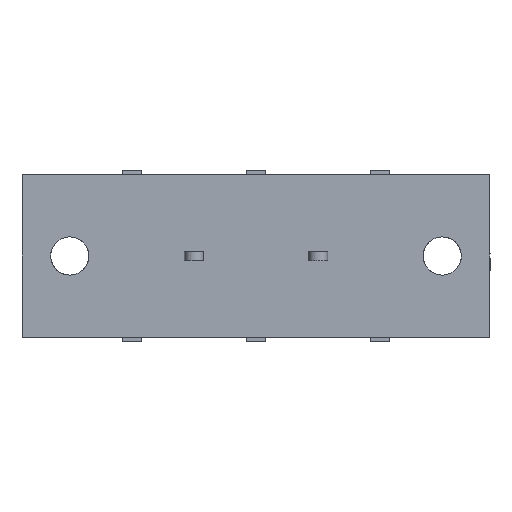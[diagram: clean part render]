
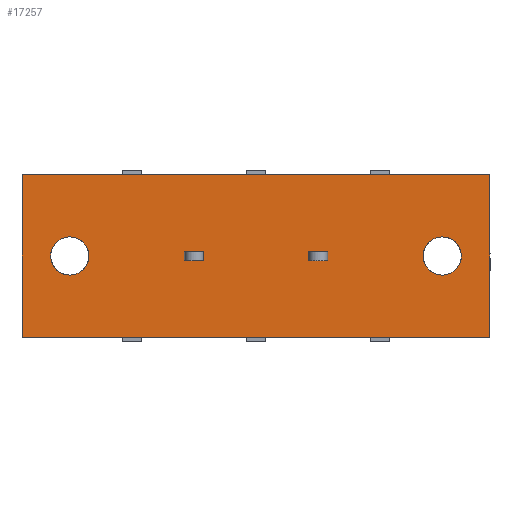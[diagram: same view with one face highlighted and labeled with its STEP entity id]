
A CAD part, front view. The second image highlights one B-rep face of the part: STEP entity #17257.
In plain terms, the highlighted planar face has unit normal (0, -1, 0).
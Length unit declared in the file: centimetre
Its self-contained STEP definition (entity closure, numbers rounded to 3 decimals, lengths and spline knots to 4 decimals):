
#942=CIRCLE('',#28912,0.2);
#981=CIRCLE('',#29157,0.2);
#1008=VERTEX_POINT('',#21512);
#1009=VERTEX_POINT('',#21513);
#1029=VERTEX_POINT('',#21566);
#1032=VERTEX_POINT('',#21576);
#1236=VERTEX_POINT('',#22237);
#1566=VERTEX_POINT('',#23707);
#1567=VERTEX_POINT('',#23709);
#1643=VERTEX_POINT('',#23946);
#1644=VERTEX_POINT('',#23947);
#1647=VERTEX_POINT('',#23969);
#1650=VERTEX_POINT('',#23979);
#1706=VERTEX_POINT('',#24138);
#2036=VERTEX_POINT('',#25608);
#2037=VERTEX_POINT('',#25610);
#2736=VECTOR('',#18386,1.);
#2758=VECTOR('',#18424,1.);
#2762=VECTOR('',#18433,1.);
#2764=VECTOR('',#18438,1.);
#3326=VECTOR('',#19454,1.);
#3426=VECTOR('',#19648,1.);
#3436=VECTOR('',#19671,1.);
#3440=VECTOR('',#19680,1.);
#3441=VECTOR('',#19684,1.);
#3888=VECTOR('',#20322,1.);
#3935=VECTOR('',#20424,1.);
#3936=VECTOR('',#20426,1.);
#4720=LINE('',#21511,#2736);
#4742=LINE('',#21568,#2758);
#4746=LINE('',#21577,#2762);
#4748=LINE('',#21582,#2764);
#5310=LINE('',#23708,#3326);
#5410=LINE('',#23945,#3426);
#5420=LINE('',#23971,#3436);
#5424=LINE('',#23980,#3440);
#5425=LINE('',#23983,#3441);
#5872=LINE('',#25609,#3888);
#5919=LINE('',#25723,#3935);
#5920=LINE('',#25725,#3936);
#6706=EDGE_CURVE('',#1008,#1009,#4720,.T.);
#6738=EDGE_CURVE('',#1009,#1029,#4742,.T.);
#6743=EDGE_CURVE('',#1032,#1008,#4746,.T.);
#6746=EDGE_CURVE('',#1029,#1032,#4748,.T.);
#7037=EDGE_CURVE('',#1236,#1236,#942,.T.);
#7531=EDGE_CURVE('',#1567,#1566,#5310,.T.);
#7652=EDGE_CURVE('',#1643,#1644,#5410,.T.);
#7664=EDGE_CURVE('',#1643,#1647,#5420,.T.);
#7669=EDGE_CURVE('',#1644,#1650,#5424,.T.);
#7671=EDGE_CURVE('',#1650,#1647,#5425,.T.);
#7745=EDGE_CURVE('',#1706,#1706,#981,.T.);
#8239=EDGE_CURVE('',#2037,#2036,#5872,.T.);
#8297=EDGE_CURVE('',#1566,#2037,#5919,.T.);
#8298=EDGE_CURVE('',#1567,#2036,#5920,.T.);
#12426=ORIENTED_EDGE('',*,*,#6746,.T.);
#12427=ORIENTED_EDGE('',*,*,#6743,.T.);
#12428=ORIENTED_EDGE('',*,*,#6706,.T.);
#12429=ORIENTED_EDGE('',*,*,#6738,.T.);
#12430=ORIENTED_EDGE('',*,*,#7037,.T.);
#12431=ORIENTED_EDGE('',*,*,#7652,.F.);
#12432=ORIENTED_EDGE('',*,*,#7664,.T.);
#12433=ORIENTED_EDGE('',*,*,#7671,.F.);
#12434=ORIENTED_EDGE('',*,*,#7669,.F.);
#12435=ORIENTED_EDGE('',*,*,#7745,.T.);
#12436=ORIENTED_EDGE('',*,*,#8297,.T.);
#12437=ORIENTED_EDGE('',*,*,#8239,.T.);
#12438=ORIENTED_EDGE('',*,*,#8298,.F.);
#12439=ORIENTED_EDGE('',*,*,#7531,.T.);
#15141=EDGE_LOOP('',(#12426,#12427,#12428,#12429));
#15142=EDGE_LOOP('',(#12430));
#15143=EDGE_LOOP('',(#12431,#12432,#12433,#12434));
#15144=EDGE_LOOP('',(#12435));
#15145=EDGE_LOOP('',(#12436,#12437,#12438,#12439));
#16229=FACE_BOUND('',#15141,.T.);
#16230=FACE_BOUND('',#15142,.T.);
#16231=FACE_BOUND('',#15143,.T.);
#16232=FACE_BOUND('',#15144,.T.);
#16233=FACE_BOUND('',#15145,.T.);
#17257=ADVANCED_FACE('',(#16229,#16230,#16231,#16232,#16233),#18075,.T.);
#18075=PLANE('',#29323);
#18386=DIRECTION('',(0.,0.,-1.));
#18424=DIRECTION('',(-1.,0.,0.));
#18433=DIRECTION('',(1.,0.,0.));
#18438=DIRECTION('',(0.,0.,1.));
#18935=DIRECTION('',(0.,1.,0.));
#18936=DIRECTION('',(0.,0.,-0.2));
#19454=DIRECTION('',(1.,0.,0.));
#19648=DIRECTION('',(0.,0.,1.));
#19671=DIRECTION('',(-1.,0.,0.));
#19680=DIRECTION('',(-1.,0.,0.));
#19684=DIRECTION('',(0.,0.,-1.));
#19803=DIRECTION('',(0.,1.,0.));
#19804=DIRECTION('',(0.,0.,0.2));
#20322=DIRECTION('',(-1.,0.,0.));
#20424=DIRECTION('',(0.,0.,1.));
#20425=DIRECTION('',(0.,-1.,0.));
#20426=DIRECTION('',(0.,0.,1.));
#21511=CARTESIAN_POINT('',(0.05,-1.1,1.7725));
#21512=CARTESIAN_POINT('',(0.05,-1.1,1.795));
#21513=CARTESIAN_POINT('',(0.05,-1.1,1.595));
#21566=CARTESIAN_POINT('',(-0.05,-1.1,1.595));
#21568=CARTESIAN_POINT('',(0.2275,-1.1,1.595));
#21576=CARTESIAN_POINT('',(-0.05,-1.1,1.795));
#21577=CARTESIAN_POINT('',(0.2275,-1.1,1.795));
#21582=CARTESIAN_POINT('',(-0.05,-1.1,1.7725));
#22236=CARTESIAN_POINT('',(0.,-1.1,-0.905));
#22237=CARTESIAN_POINT('',(0.,-1.1,-0.705));
#23707=CARTESIAN_POINT('',(0.85,-1.1,-1.405));
#23708=CARTESIAN_POINT('',(0.85,-1.1,-1.405));
#23709=CARTESIAN_POINT('',(-0.85,-1.1,-1.405));
#23945=CARTESIAN_POINT('',(0.05,-1.1,-0.0775));
#23946=CARTESIAN_POINT('',(0.05,-1.1,0.295));
#23947=CARTESIAN_POINT('',(0.05,-1.1,0.495));
#23969=CARTESIAN_POINT('',(-0.05,-1.1,0.295));
#23971=CARTESIAN_POINT('',(0.455,-1.1,0.295));
#23979=CARTESIAN_POINT('',(-0.05,-1.1,0.495));
#23980=CARTESIAN_POINT('',(0.455,-1.1,0.495));
#23983=CARTESIAN_POINT('',(-0.05,-1.1,-0.0775));
#24137=CARTESIAN_POINT('',(0.,-1.1,2.995));
#24138=CARTESIAN_POINT('',(0.,-1.1,2.795));
#25608=CARTESIAN_POINT('',(-0.85,-1.1,3.495));
#25609=CARTESIAN_POINT('',(-0.85,-1.1,3.495));
#25610=CARTESIAN_POINT('',(0.85,-1.1,3.495));
#25723=CARTESIAN_POINT('',(0.85,-1.1,2.245));
#25724=CARTESIAN_POINT('',(0.,-1.1,2.245));
#25725=CARTESIAN_POINT('',(-0.85,-1.1,2.245));
#28912=AXIS2_PLACEMENT_3D('',#22236,#18935,#18936);
#29157=AXIS2_PLACEMENT_3D('',#24137,#19803,#19804);
#29323=AXIS2_PLACEMENT_3D('',#25724,#20425,$);
